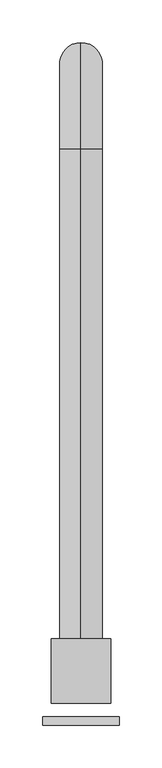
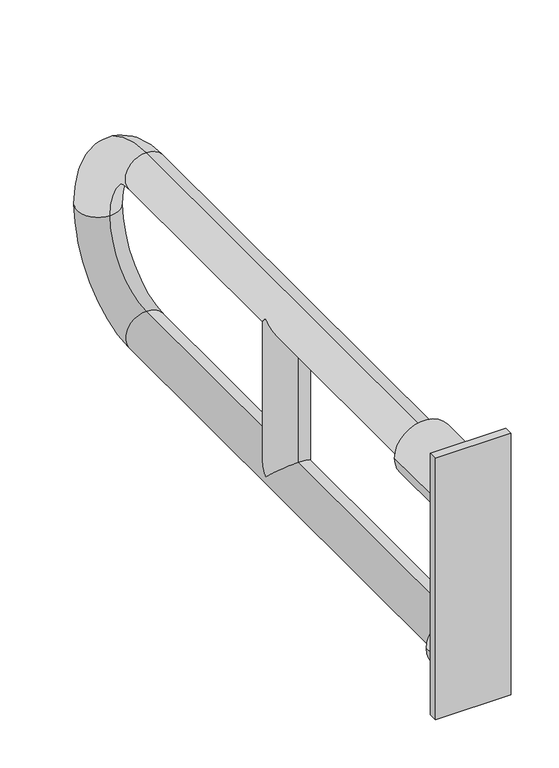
"""IFC4 building model written with IfcOpenShell, lengths in millimetres: proxy geometry, BIMHealth-Grab_Rail_Drop_Down-LOD2A-v1 : RIG02_Grabrail horizontal."""

from ifc_helpers import new_model, si_unit, point, frame, frame_2d, origin, place, context, project, spatial, polyline, circle_curve, ellipse_curve, trimmed, segment, composite_curve, outline, extrude, source, transform, mapped, element, save
from ifc_brep_helpers import plane_surface, cylinder_surface, revolved_surface, advanced_brep


def generic_models_79982e2d(model_context):
    return source(origin(), model_context, "Body", "SolidModel", [
        advanced_brep(
        [(125.0, 135.7700007, 655.0), (125.0, 135.7700007, 705.0), (125.0, 70.0, 505.0), (125.0, 70.0, 455.0), (125.0, 395.0, 655.0), (150.0, 420.0, 680.0), (125.0, 445.0, 655.0), (125.0, 710.0, 655.0), (125.0, 710.0, 705.0), (100.0, 420.0, 680.0), (125.0, 785.0, 580.0), (125.0, 835.0, 580.0), (125.0, 710.0, 505.0), (125.0, 710.0, 455.0), (125.0, 445.0, 505.0), (150.0, 420.0, 480.0), (125.0, 395.0, 505.0), (100.0, 420.0, 480.0)],
        [
            (0, 1, circle_curve(frame((125.0, 135.7700007, 680.0), z_axis=(0.0, -1.0, 0.0), x_axis=(0.0, 0.0, 1.0)), 25.0)),
            (1, 0, circle_curve(frame((125.0, 135.7700007, 680.0), z_axis=(0.0, -1.0, 0.0), x_axis=(0.0, 0.0, 1.0)), 25.0)),
            (2, 3, circle_curve(frame((125.0, 70.0, 480.0), z_axis=(0.0, -1.0, 0.0), x_axis=(0.0, 0.0, -1.0)), 25.0)),
            (3, 2, circle_curve(frame((125.0, 70.0, 480.0), z_axis=(0.0, -1.0, 0.0), x_axis=(0.0, 0.0, -1.0)), 25.0)),
            (0, 4),
            (4, 5, ellipse_curve(frame((125.0, 420.0, 680.0), z_axis=(0.0, -0.7071067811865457, 0.7071067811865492), x_axis=(0.0, -0.7071067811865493, -0.7071067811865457)), 35.3553391, 25.0)),
            (5, 6, ellipse_curve(frame((125.0, 420.0, 680.0), z_axis=(0.0, 0.7071067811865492, 0.7071067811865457), x_axis=(0.0, -0.7071067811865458, 0.7071067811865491)), 35.3553391, 25.0)),
            (6, 7),
            (7, 8, circle_curve(frame((125.0, 710.0, 680.0), z_axis=(0.0, -1.0, 0.0), x_axis=(0.0, 0.0, 1.0)), 25.0)),
            (8, 1),
            (8, 7, circle_curve(frame((125.0, 710.0, 680.0), z_axis=(0.0, -1.0, 0.0), x_axis=(0.0, 0.0, 1.0)), 25.0)),
            (6, 9, ellipse_curve(frame((125.0, 420.0, 680.0), z_axis=(0.0, 0.7071067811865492, 0.7071067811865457), x_axis=(0.0, -0.7071067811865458, 0.7071067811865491)), 35.3553391, 25.0)),
            (9, 4, ellipse_curve(frame((125.0, 420.0, 680.0), z_axis=(0.0, -0.7071067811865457, 0.7071067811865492), x_axis=(0.0, -0.7071067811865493, -0.7071067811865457)), 35.3553391, 25.0)),
            (7, 10, circle_curve(frame((125.0, 710.0, 580.0), z_axis=(-1.0, 0.0, 0.0), x_axis=(0.0, 0.0, 1.0)), 75.0)),
            (10, 11, circle_curve(frame((125.0, 810.0, 580.0), z_axis=(0.0, 0.0, 1.0), x_axis=(0.0, 1.0, 0.0)), 25.0)),
            (11, 8, circle_curve(frame((125.0, 710.0, 580.0), z_axis=(1.0, 0.0, 0.0), x_axis=(0.0, 0.0, 1.0)), 125.0)),
            (11, 10, circle_curve(frame((125.0, 810.0, 580.0), z_axis=(0.0, 0.0, 1.0), x_axis=(0.0, 1.0, 0.0)), 25.0)),
            (10, 12, circle_curve(frame((125.0, 710.0, 580.0), z_axis=(-1.0, 0.0, 0.0), x_axis=(0.0, 1.0, 0.0)), 75.0)),
            (12, 13, circle_curve(frame((125.0, 710.0, 480.0), z_axis=(0.0, 1.0, 0.0), x_axis=(0.0, 0.0, -1.0)), 25.0)),
            (13, 11, circle_curve(frame((125.0, 710.0, 580.0), z_axis=(1.0, 0.0, 0.0), x_axis=(0.0, 1.0, 0.0)), 125.0)),
            (13, 12, circle_curve(frame((125.0, 710.0, 480.0), z_axis=(0.0, 1.0, 0.0), x_axis=(0.0, 0.0, -1.0)), 25.0)),
            (3, 13),
            (12, 14),
            (14, 15, ellipse_curve(frame((125.0, 420.0, 480.0), z_axis=(0.0, 0.7071067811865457, -0.7071067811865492), x_axis=(0.0, 0.7071067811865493, 0.7071067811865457)), 35.3553391, 25.0)),
            (15, 16, ellipse_curve(frame((125.0, 420.0, 480.0), z_axis=(0.0, -0.7071067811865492, -0.7071067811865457), x_axis=(0.0, 0.7071067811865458, -0.7071067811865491)), 35.3553391, 25.0)),
            (16, 2),
            (16, 17, ellipse_curve(frame((125.0, 420.0, 480.0), z_axis=(0.0, -0.7071067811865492, -0.7071067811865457), x_axis=(0.0, 0.7071067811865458, -0.7071067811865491)), 35.3553391, 25.0)),
            (17, 14, ellipse_curve(frame((125.0, 420.0, 480.0), z_axis=(0.0, 0.7071067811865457, -0.7071067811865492), x_axis=(0.0, 0.7071067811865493, 0.7071067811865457)), 35.3553391, 25.0)),
            (4, 16),
            (14, 6),
        ],
        [
            plane_surface(frame((125.0, 135.7700007, 680.0), z_axis=(0.0, -1.0, 0.0), x_axis=(1.0, 0.0, 0.0))),
            plane_surface(frame((125.0, 70.0, 480.0), z_axis=(0.0, -1.0, 0.0), x_axis=(1.0, 0.0, 0.0))),
            cylinder_surface(frame((125.0, 135.7700007, 680.0), z_axis=(0.0, -1.0, 0.0), x_axis=(0.0, 0.0, 1.0)), 25.0),
            revolved_surface(trimmed(ellipse_curve(frame((125.0, 710.0, 680.0), z_axis=(0.0, -1.0, 0.0), x_axis=(0.0, 0.0, 1.0)), 25.0, 25.0), [point((125.0, 710.0, 655.0))], [point((125.0, 710.0, 705.0))], True, "CARTESIAN"), (125.0, 710.0, 580.0), (-1.0, 0.0, 0.0)),
            revolved_surface(trimmed(ellipse_curve(frame((125.0, 710.0, 680.0), z_axis=(0.0, -1.0, 0.0), x_axis=(0.0, 0.0, 1.0)), 25.0, 25.0), [point((125.0, 710.0, 705.0))], [point((125.0, 710.0, 655.0))], True, "CARTESIAN"), (125.0, 710.0, 580.0), (-1.0, 0.0, 0.0)),
            revolved_surface(trimmed(ellipse_curve(frame((125.0, 810.0, 580.0), z_axis=(0.0, 0.0, 1.0), x_axis=(0.0, 1.0, 0.0)), 25.0, 25.0), [point((125.0, 785.0, 580.0))], [point((125.0, 835.0, 580.0))], True, "CARTESIAN"), (125.0, 710.0, 580.0), (-1.0, 0.0, 0.0)),
            revolved_surface(trimmed(ellipse_curve(frame((125.0, 810.0, 580.0), z_axis=(0.0, 0.0, 1.0), x_axis=(0.0, 1.0, 0.0)), 25.0, 25.0), [point((125.0, 835.0, 580.0))], [point((125.0, 785.0, 580.0))], True, "CARTESIAN"), (125.0, 710.0, 580.0), (-1.0, 0.0, 0.0)),
            cylinder_surface(frame((125.0, 710.0, 480.0), z_axis=(0.0, 1.0, 0.0), x_axis=(0.0, 0.0, -1.0)), 25.0),
            cylinder_surface(frame((125.0, 420.0, 480.0), z_axis=(0.0, 0.0, -1.0), x_axis=(0.0, -1.0, 0.0)), 25.0),
        ],
        [
            (0, [[1, 2]]),
            (1, [[3, 4]]),
            (2, [[-1, 5, 6, 7, 8, 9, 10]]),
            (2, [[-2, -10, 11, -8, 12, 13, -5]]),
            (3, [[-9, 14, 15, 16]]),
            (4, [[-11, -16, 17, -14]]),
            (5, [[-15, 18, 19, 20]]),
            (6, [[-17, -20, 21, -18]]),
            (7, [[-4, 22, -19, 23, 24, 25, 26]]),
            (7, [[-3, -26, 27, 28, -23, -21, -22]]),
            (8, [[29, -25, -24, 30, -7, -6]]),
            (8, [[-29, -13, -12, -30, -28, -27]]),
        ],
    ),
        extrude(outline(composite_curve([segment(trimmed(circle_curve(frame_2d((680.0, 125.0)), 35.0), [point((680.0, 160.0))], [point((680.0, 90.0))], False, "CARTESIAN"), True, "CONTINUOUS"), segment(trimmed(circle_curve(frame_2d((680.0, 125.0)), 35.0), [point((680.0, 90.0))], [point((680.0, 160.0))], False, "CARTESIAN"), True, "CONTINUOUS")], self_intersect=False)), frame((0.0, 60.0, 0.0), z_axis=(0.0, 1.0, 0.0), x_axis=(0.0, 0.0, 1.0)), (0.0, 0.0, 1.0), 75.7700007),
        extrude(outline(composite_curve([segment(trimmed(circle_curve(frame_2d((480.0, 125.0)), 35.0), [point((480.0, 160.0))], [point((480.0, 90.0))], False, "CARTESIAN"), True, "CONTINUOUS"), segment(trimmed(circle_curve(frame_2d((480.0, 125.0)), 35.0), [point((480.0, 90.0))], [point((480.0, 160.0))], False, "CARTESIAN"), True, "CONTINUOUS")], self_intersect=False)), frame((0.0, 60.0, 0.0), z_axis=(0.0, 1.0, 0.0), x_axis=(0.0, 0.0, 1.0)), (0.0, 0.0, 1.0), 10.0),
        extrude(outline(polyline([(170.0, 34.25), (80.0, 34.25), (80.0, 44.25), (170.0, 44.25), (170.0, 34.25)])), frame((0.0, 0.0, 415.0), z_axis=(0.0, 0.0, 1.0), x_axis=(1.0, 0.0, 0.0)), (0.0, 0.0, 1.0), 330.0),
    ])


if __name__ == "__main__":
    model = new_model("IFC4")
    model_context = context("Model", 3, world=origin())
    ifc_project = project(units=[si_unit("LENGTHUNIT", "METRE", prefix="MILLI")], contexts=[model_context])
    site = spatial("IfcSite", under=ifc_project)
    building = spatial("IfcBuilding", under=site)
    placement = place(None, origin())
    generic_models_shape = generic_models_79982e2d(model_context)
    element("IfcBuildingElementProxy", 1, Name="BIMHealth-Grab_Rail_Drop_Down-LOD2A-v1 : RIG02_Grabrail horizontal", ObjectType="BIMHealth-Grab_Rail_Drop_Down-LOD2A-v1 : RIG02_Grabrail horizontal", at=placement, inside=building, context=model_context, shape_type="MappedRepresentation", body=[
        mapped(generic_models_shape, transform((0.0, 0.0, 0.0), x_axis=(1.0, 0.0, 0.0), y_axis=(0.0, 1.0, 0.0), z_axis=(0.0, 0.0, 1.0))),
    ])
    save(model, "model.ifc")
